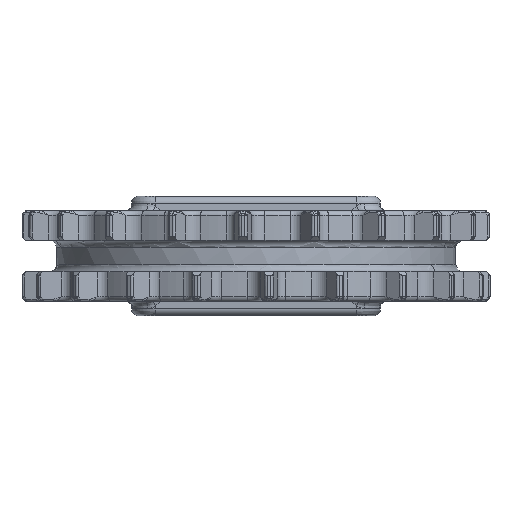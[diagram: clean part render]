
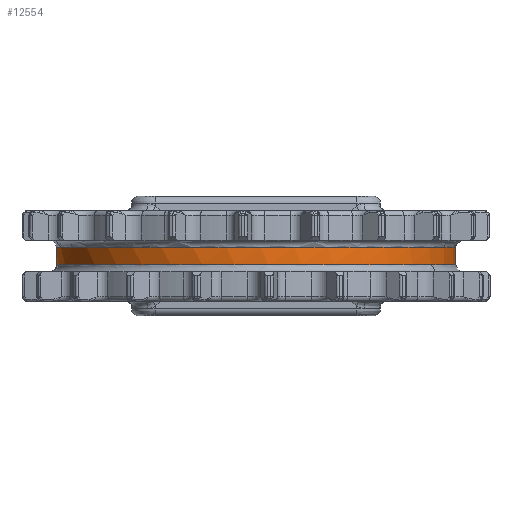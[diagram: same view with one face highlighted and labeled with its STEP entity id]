
A CAD part, front view. The second image highlights one B-rep face of the part: STEP entity #12554.
In plain terms, the highlighted cylindrical face has radius 41.722 mm (diameter 83.444 mm), a full revolution.
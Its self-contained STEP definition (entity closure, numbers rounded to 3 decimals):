
#10586=CYLINDRICAL_SURFACE('',#32172,41.722);
#12554=ADVANCED_FACE('',(#15356,#15357),#10586,.T.);
#14671=CIRCLE('',#32170,41.722);
#14672=CIRCLE('',#32171,41.722);
#15356=FACE_BOUND('',#15774,.T.);
#15357=FACE_BOUND('',#15775,.T.);
#15774=EDGE_LOOP('',(#20041));
#15775=EDGE_LOOP('',(#20042));
#20041=ORIENTED_EDGE('',*,*,#27828,.T.);
#20042=ORIENTED_EDGE('',*,*,#27829,.T.);
#25615=VERTEX_POINT('',#46160);
#25616=VERTEX_POINT('',#46162);
#27828=EDGE_CURVE('',#25615,#25615,#14671,.T.);
#27829=EDGE_CURVE('',#25616,#25616,#14672,.T.);
#32170=AXIS2_PLACEMENT_3D('',#46159,#36840,#36841);
#32171=AXIS2_PLACEMENT_3D('',#46161,#36842,#36843);
#32172=AXIS2_PLACEMENT_3D('',#46163,#36844,#36845);
#36840=DIRECTION('',(0.,0.,-1.));
#36841=DIRECTION('',(1.,0.,0.));
#36842=DIRECTION('',(0.,0.,1.));
#36843=DIRECTION('',(1.,0.,0.));
#36844=DIRECTION('',(0.,0.,1.));
#36845=DIRECTION('',(1.,0.,0.));
#46159=CARTESIAN_POINT('',(0.,0.,1.8));
#46160=CARTESIAN_POINT('',(41.722,0.,1.8));
#46161=CARTESIAN_POINT('',(0.,0.,-1.8));
#46162=CARTESIAN_POINT('',(41.722,0.,-1.8));
#46163=CARTESIAN_POINT('',(0.,0.,-9.5));
